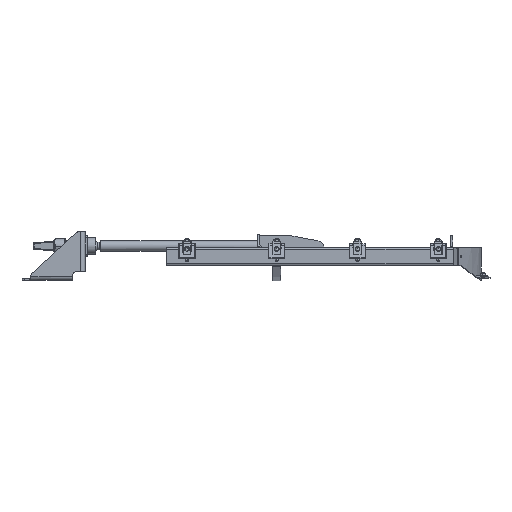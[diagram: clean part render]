
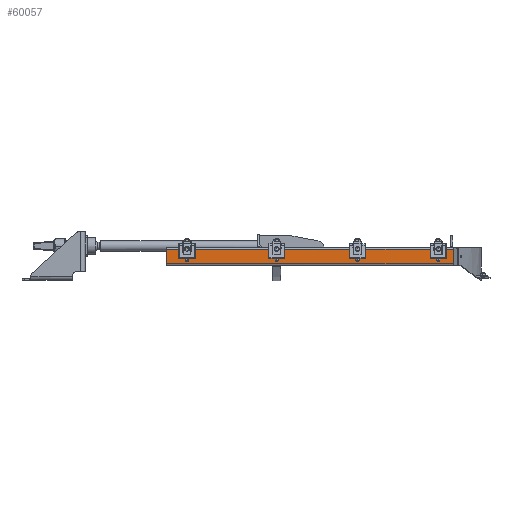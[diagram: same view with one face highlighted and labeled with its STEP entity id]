
A CAD part, left-side view. The second image highlights one B-rep face of the part: STEP entity #60057.
In plain terms, the highlighted planar face has unit normal (-1, 0, 0).
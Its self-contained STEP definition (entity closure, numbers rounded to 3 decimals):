
#636 = ORIENTED_EDGE ( 'NONE', *, *, #53715, .F. ) ;
#3748 = VECTOR ( 'NONE', #45368, 1000. ) ;
#7829 = LINE ( 'NONE', #64438, #13123 ) ;
#13123 = VECTOR ( 'NONE', #49139, 1000. ) ;
#13817 = CARTESIAN_POINT ( 'NONE',  ( -240.01, 764.647, 40. ) ) ;
#14313 = CARTESIAN_POINT ( 'NONE',  ( -240.01, 56.269, 40. ) ) ;
#14733 = CARTESIAN_POINT ( 'NONE',  ( -240.01, -35.129, 40. ) ) ;
#18754 = LINE ( 'NONE', #35319, #29354 ) ;
#19150 = FACE_OUTER_BOUND ( 'NONE', #63464, .T. ) ;
#19686 = LINE ( 'NONE', #60288, #3748 ) ;
#23346 = VERTEX_POINT ( 'NONE', #14313 ) ;
#24231 = DIRECTION ( 'NONE',  ( 0., 1., 0. ) ) ;
#26751 = ORIENTED_EDGE ( 'NONE', *, *, #60998, .F. ) ;
#29307 = VERTEX_POINT ( 'NONE', #54639 ) ;
#29354 = VECTOR ( 'NONE', #24231, 1000. ) ;
#30960 = VERTEX_POINT ( 'NONE', #13817 ) ;
#35319 = CARTESIAN_POINT ( 'NONE',  ( -240.01, -35.129, 4. ) ) ;
#40300 = VERTEX_POINT ( 'NONE', #60719 ) ;
#40335 = VECTOR ( 'NONE', #63315, 1000. ) ;
#45252 = EDGE_CURVE ( 'NONE', #23346, #30960, #7829, .T. ) ;
#45368 = DIRECTION ( 'NONE',  ( 0., 0., 1. ) ) ;
#45826 = DIRECTION ( 'NONE',  ( -1., 0., 0. ) ) ;
#48636 = AXIS2_PLACEMENT_3D ( 'NONE', #14733, #45826, #60794 ) ;
#49139 = DIRECTION ( 'NONE',  ( 0., 1., 0. ) ) ;
#53715 = EDGE_CURVE ( 'NONE', #40300, #30960, #58551, .T. ) ;
#54639 = CARTESIAN_POINT ( 'NONE',  ( -240.01, 56.269, 4. ) ) ;
#54694 = PLANE ( 'NONE',  #48636 ) ;
#56354 = EDGE_CURVE ( 'NONE', #29307, #23346, #19686, .T. ) ;
#58551 = LINE ( 'NONE', #64649, #40335 ) ;
#59255 = ORIENTED_EDGE ( 'NONE', *, *, #45252, .T. ) ;
#60057 = ADVANCED_FACE ( 'NONE', ( #19150 ), #54694, .T. ) ;
#60288 = CARTESIAN_POINT ( 'NONE',  ( -240.01, 56.269, 0. ) ) ;
#60719 = CARTESIAN_POINT ( 'NONE',  ( -240.01, 764.647, 4. ) ) ;
#60794 = DIRECTION ( 'NONE',  ( 0., 0., 1. ) ) ;
#60998 = EDGE_CURVE ( 'NONE', #29307, #40300, #18754, .T. ) ;
#63315 = DIRECTION ( 'NONE',  ( 0., 0., 1. ) ) ;
#63464 = EDGE_LOOP ( 'NONE', ( #26751, #63767, #59255, #636 ) ) ;
#63767 = ORIENTED_EDGE ( 'NONE', *, *, #56354, .T. ) ;
#64438 = CARTESIAN_POINT ( 'NONE',  ( -240.01, -35.129, 40. ) ) ;
#64649 = CARTESIAN_POINT ( 'NONE',  ( -240.01, 764.647, 40. ) ) ;
